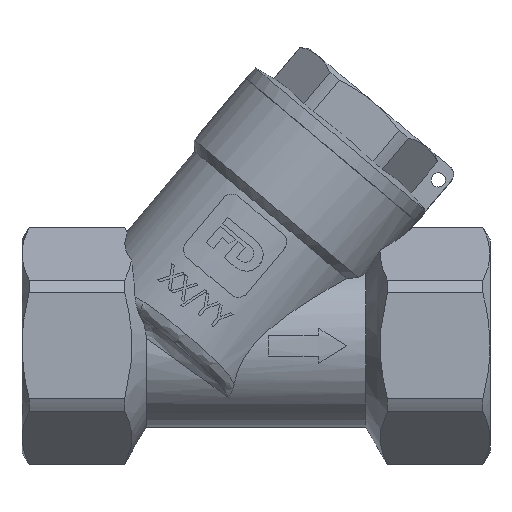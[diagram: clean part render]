
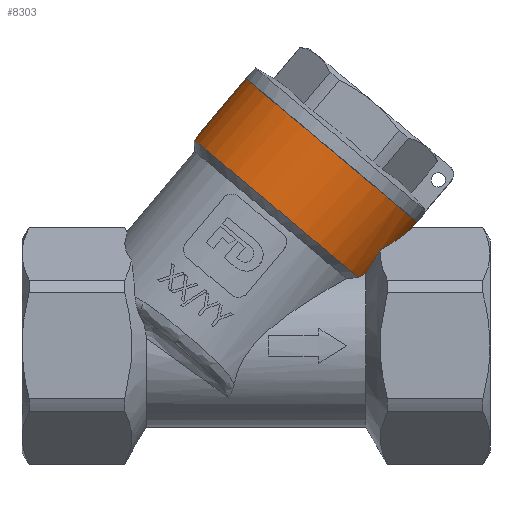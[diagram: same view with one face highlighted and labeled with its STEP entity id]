
A CAD part, top view. The second image highlights one B-rep face of the part: STEP entity #8303.
In plain terms, the highlighted cylindrical face has radius 15.75 mm (diameter 31.5 mm), a full revolution.
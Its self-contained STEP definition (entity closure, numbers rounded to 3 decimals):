
#212=CIRCLE('',#9085,15.75);
#213=CIRCLE('',#9086,15.75);
#214=CIRCLE('',#9088,15.75);
#733=B_SPLINE_CURVE_WITH_KNOTS('',3,(#16851,#16852,#16853,#16854),
 .UNSPECIFIED.,.F.,.F.,(4,4),(1.765,1.868),
 .UNSPECIFIED.);
#734=B_SPLINE_CURVE_WITH_KNOTS('',3,(#16858,#16859,#16860,#16861),
 .UNSPECIFIED.,.F.,.F.,(4,4),(3.655,4.039),
 .UNSPECIFIED.);
#735=B_SPLINE_CURVE_WITH_KNOTS('',3,(#16863,#16864,#16865,#16866),
 .UNSPECIFIED.,.F.,.F.,(4,4),(5.289,5.446),
 .UNSPECIFIED.);
#736=B_SPLINE_CURVE_WITH_KNOTS('',3,(#16870,#16871,#16872,#16873),
 .UNSPECIFIED.,.F.,.F.,(4,4),(6.632,6.789),
 .UNSPECIFIED.);
#737=B_SPLINE_CURVE_WITH_KNOTS('',3,(#16875,#16876,#16877,#16878),
 .UNSPECIFIED.,.F.,.F.,(4,4),(1.278,1.662),
 .UNSPECIFIED.);
#738=B_SPLINE_CURVE_WITH_KNOTS('',3,(#16881,#16882,#16883,#16884),
 .UNSPECIFIED.,.F.,.F.,(4,4),(1.868,1.972),
 .UNSPECIFIED.);
#1156=LINE('',#16849,#1549);
#1549=VECTOR('',#10791,15.75);
#2176=FACE_OUTER_BOUND('',#2676,.T.);
#2676=EDGE_LOOP('',(#6987,#6988,#6989,#6990,#6991,#6992,#6993,#6994,#6995,
#6996,#6997,#6998,#6999));
#3128=ELLIPSE('',#9087,23.741,15.75);
#3129=ELLIPSE('',#9089,23.741,15.75);
#3716=VERTEX_POINT('',#16844);
#3717=VERTEX_POINT('',#16845);
#3718=VERTEX_POINT('',#16848);
#3719=VERTEX_POINT('',#16850);
#3720=VERTEX_POINT('',#16855);
#3721=VERTEX_POINT('',#16857);
#3722=VERTEX_POINT('',#16862);
#3723=VERTEX_POINT('',#16867);
#3724=VERTEX_POINT('',#16869);
#3725=VERTEX_POINT('',#16874);
#3726=VERTEX_POINT('',#16879);
#4864=EDGE_CURVE('',#3716,#3717,#212,.T.);
#4865=EDGE_CURVE('',#3717,#3716,#213,.T.);
#4866=EDGE_CURVE('',#3717,#3718,#1156,.T.);
#4867=EDGE_CURVE('',#3719,#3718,#733,.T.);
#4868=EDGE_CURVE('',#3720,#3719,#3128,.T.);
#4869=EDGE_CURVE('',#3721,#3720,#734,.T.);
#4870=EDGE_CURVE('',#3722,#3721,#735,.T.);
#4871=EDGE_CURVE('',#3722,#3723,#214,.T.);
#4872=EDGE_CURVE('',#3724,#3723,#736,.T.);
#4873=EDGE_CURVE('',#3725,#3724,#737,.T.);
#4874=EDGE_CURVE('',#3726,#3725,#3129,.T.);
#4875=EDGE_CURVE('',#3718,#3726,#738,.T.);
#6987=ORIENTED_EDGE('',*,*,#4864,.F.);
#6988=ORIENTED_EDGE('',*,*,#4865,.F.);
#6989=ORIENTED_EDGE('',*,*,#4866,.T.);
#6990=ORIENTED_EDGE('',*,*,#4867,.F.);
#6991=ORIENTED_EDGE('',*,*,#4868,.F.);
#6992=ORIENTED_EDGE('',*,*,#4869,.F.);
#6993=ORIENTED_EDGE('',*,*,#4870,.F.);
#6994=ORIENTED_EDGE('',*,*,#4871,.T.);
#6995=ORIENTED_EDGE('',*,*,#4872,.F.);
#6996=ORIENTED_EDGE('',*,*,#4873,.F.);
#6997=ORIENTED_EDGE('',*,*,#4874,.F.);
#6998=ORIENTED_EDGE('',*,*,#4875,.F.);
#6999=ORIENTED_EDGE('',*,*,#4866,.F.);
#7902=CYLINDRICAL_SURFACE('',#9084,15.75);
#8303=ADVANCED_FACE('',(#2176),#7902,.T.);
#9084=AXIS2_PLACEMENT_3D('',#16843,#10785,#10786);
#9085=AXIS2_PLACEMENT_3D('',#16846,#10787,#10788);
#9086=AXIS2_PLACEMENT_3D('',#16847,#10789,#10790);
#9087=AXIS2_PLACEMENT_3D('',#16856,#10792,#10793);
#9088=AXIS2_PLACEMENT_3D('',#16868,#10794,#10795);
#9089=AXIS2_PLACEMENT_3D('',#16880,#10796,#10797);
#10785=DIRECTION('center_axis',(0.643,0.766,0.));
#10786=DIRECTION('ref_axis',(-0.766,0.643,0.));
#10787=DIRECTION('center_axis',(0.643,0.766,0.));
#10788=DIRECTION('ref_axis',(0.766,-0.643,0.));
#10789=DIRECTION('center_axis',(0.643,0.766,0.));
#10790=DIRECTION('ref_axis',(0.766,-0.643,0.));
#10791=DIRECTION('',(-0.643,-0.766,0.));
#10792=DIRECTION('center_axis',(0.,-0.866,0.5));
#10793=DIRECTION('ref_axis',(-0.859,-0.256,-0.443));
#10794=DIRECTION('center_axis',(0.643,0.766,0.));
#10795=DIRECTION('ref_axis',(0.766,-0.643,0.));
#10796=DIRECTION('center_axis',(0.,-0.866,-0.5));
#10797=DIRECTION('ref_axis',(-0.859,-0.256,0.443));
#16843=CARTESIAN_POINT('Origin',(-28.937,23.242,0.));
#16844=CARTESIAN_POINT('',(-37.368,37.698,0.));
#16845=CARTESIAN_POINT('',(-13.237,17.45,0.));
#16846=CARTESIAN_POINT('Origin',(-25.303,27.574,0.));
#16847=CARTESIAN_POINT('Origin',(-25.303,27.574,0.));
#16848=CARTESIAN_POINT('',(-13.825,16.75,0.));
#16849=CARTESIAN_POINT('',(-16.872,13.119,0.));
#16850=CARTESIAN_POINT('',(-13.897,16.717,-1.045));
#16851=CARTESIAN_POINT('Ctrl Pts',(-13.897,16.717,-1.045));
#16852=CARTESIAN_POINT('Ctrl Pts',(-13.849,16.739,-0.694));
#16853=CARTESIAN_POINT('Ctrl Pts',(-13.825,16.75,-0.345));
#16854=CARTESIAN_POINT('Ctrl Pts',(-13.825,16.75,0.));
#16855=CARTESIAN_POINT('',(-18.397,13.531,-6.564));
#16856=CARTESIAN_POINT('Origin',(-33.906,17.321,0.));
#16857=CARTESIAN_POINT('',(-20.44,10.249,-5.216));
#16858=CARTESIAN_POINT('Ctrl Pts',(-20.44,10.249,-5.216));
#16859=CARTESIAN_POINT('Ctrl Pts',(-19.773,11.303,-5.691));
#16860=CARTESIAN_POINT('Ctrl Pts',(-19.089,12.404,-6.14));
#16861=CARTESIAN_POINT('Ctrl Pts',(-18.397,13.531,-6.564));
#16862=CARTESIAN_POINT('',(-21.509,9.629,-6.288));
#16863=CARTESIAN_POINT('Ctrl Pts',(-21.509,9.629,-6.288));
#16864=CARTESIAN_POINT('Ctrl Pts',(-21.138,9.846,-5.955));
#16865=CARTESIAN_POINT('Ctrl Pts',(-20.777,10.055,-5.597));
#16866=CARTESIAN_POINT('Ctrl Pts',(-20.44,10.249,-5.216));
#16867=CARTESIAN_POINT('',(-21.509,9.629,6.288));
#16868=CARTESIAN_POINT('Origin',(-32.571,18.911,0.));
#16869=CARTESIAN_POINT('',(-20.44,10.249,5.216));
#16870=CARTESIAN_POINT('Ctrl Pts',(-20.44,10.249,5.216));
#16871=CARTESIAN_POINT('Ctrl Pts',(-20.777,10.055,5.597));
#16872=CARTESIAN_POINT('Ctrl Pts',(-21.138,9.846,5.955));
#16873=CARTESIAN_POINT('Ctrl Pts',(-21.509,9.629,6.288));
#16874=CARTESIAN_POINT('',(-18.397,13.531,6.564));
#16875=CARTESIAN_POINT('Ctrl Pts',(-18.397,13.531,6.564));
#16876=CARTESIAN_POINT('Ctrl Pts',(-19.089,12.404,6.14));
#16877=CARTESIAN_POINT('Ctrl Pts',(-19.773,11.303,5.691));
#16878=CARTESIAN_POINT('Ctrl Pts',(-20.44,10.249,5.216));
#16879=CARTESIAN_POINT('',(-13.897,16.717,1.045));
#16880=CARTESIAN_POINT('Origin',(-33.906,17.321,0.));
#16881=CARTESIAN_POINT('Ctrl Pts',(-13.825,16.75,0.));
#16882=CARTESIAN_POINT('Ctrl Pts',(-13.825,16.75,0.345));
#16883=CARTESIAN_POINT('Ctrl Pts',(-13.849,16.739,0.694));
#16884=CARTESIAN_POINT('Ctrl Pts',(-13.897,16.717,1.045));
